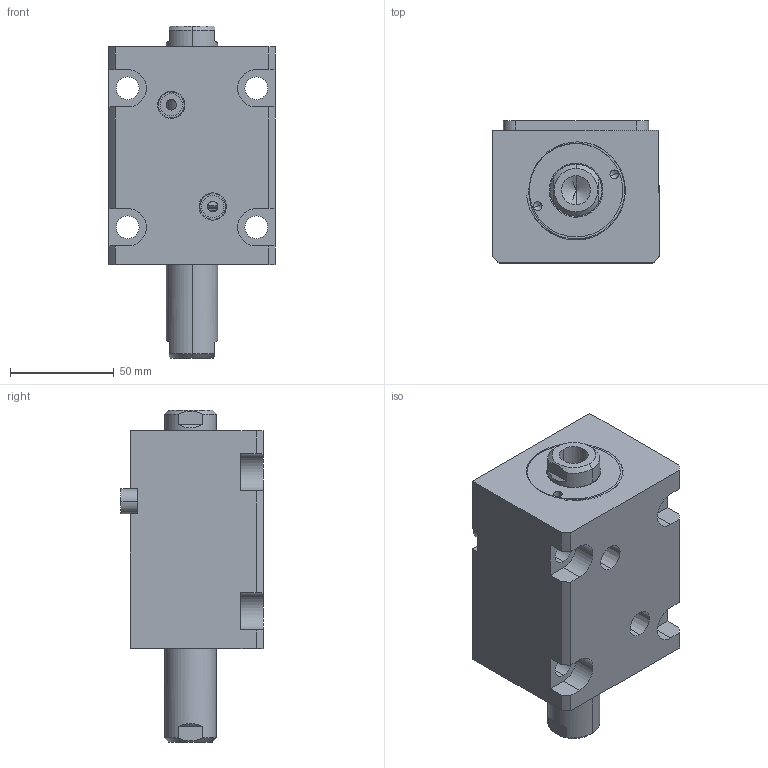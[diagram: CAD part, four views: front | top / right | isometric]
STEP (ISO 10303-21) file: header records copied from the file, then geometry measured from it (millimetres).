
FILE_DESCRIPTION (( 'STEP AP214' ), '1' );
FILE_NAME ('chtb-lw40x35n_asm.STEP', '2018-06-05T01:30:34', ( 'Windows' ), ( 'Microsoft' ), 'SwSTEP 2.0', 'SolidWorks 2015', '' );
FILE_SCHEMA (( 'AUTOMOTIVE_DESIGN' ));
Length unit declared in the file: millimetre
Products named in the file (5): CHTB-LW40X35NBT; chtb-lw40x35n_asm; CHTB-SD40QG; CHTB-LA40PJ; CHTB-SW40X35NHSG
Assembly tree (4 placements, depth 2):
  chtb-lw40x35n_asm
    CHTB-LW40X35NBT
    CHTB-SW40X35NHSG
    CHTB-LA40PJ
    CHTB-SD40QG
Bounding box: 80 x 68.5 x 160 mm (x, y, z)
Volume: 494207 mm3; surface area: 92189.9 mm2
Topology: 4 solids, 4 shells, 172 faces, 462 edges, 304 vertices
Faces by surface type: cylinder 77, plane 52, cone 17, bspline 14, torus 12
Entity records: 10654 total; most frequent: CARTESIAN_POINT 6188, ORIENTED_EDGE 904, DIRECTION 853, EDGE_CURVE 452, AXIS2_PLACEMENT_3D 340, VERTEX_POINT 304, EDGE_LOOP 204, CIRCLE 175
